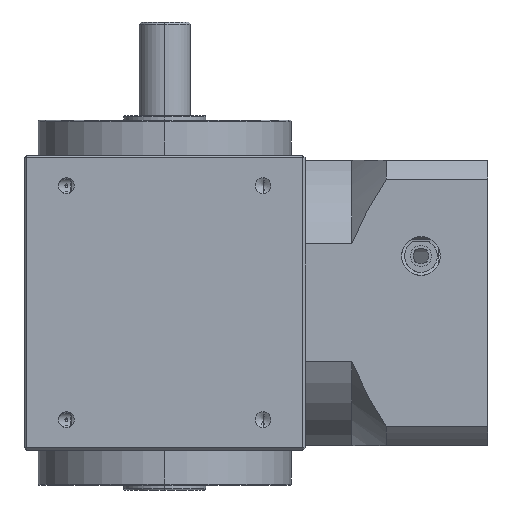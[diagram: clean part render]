
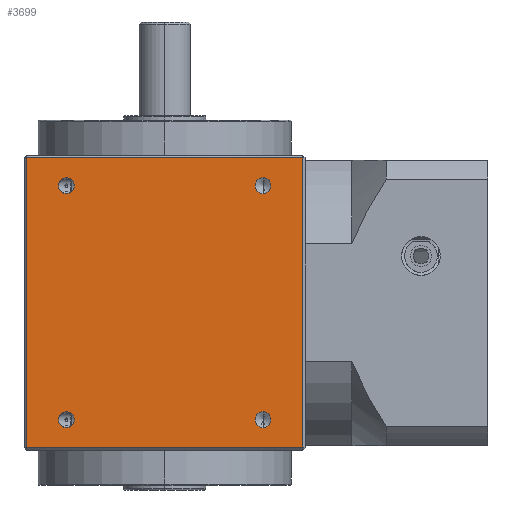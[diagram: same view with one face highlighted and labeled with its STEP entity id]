
A CAD part, left-side view. The second image highlights one B-rep face of the part: STEP entity #3699.
In plain terms, the highlighted planar face has unit normal (-1, 0, 0).
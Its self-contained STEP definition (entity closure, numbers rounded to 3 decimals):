
#340 = AXIS2_PLACEMENT_3D ( 'NONE', #7310, #7315, #7372 ) ;
#581 = VERTEX_POINT ( 'NONE', #5568 ) ;
#1179 = LINE ( 'NONE', #2977, #1190 ) ;
#1185 = LINE ( 'NONE', #2987, #1188 ) ;
#1187 = CIRCLE ( 'NONE', #6885, 3.4 ) ;
#1188 = VECTOR ( 'NONE', #2989, 1000. ) ;
#1189 = LINE ( 'NONE', #2991, #1192 ) ;
#1190 = VECTOR ( 'NONE', #2990, 1000. ) ;
#1191 = LINE ( 'NONE', #2993, #1194 ) ;
#1192 = VECTOR ( 'NONE', #2992, 1000. ) ;
#1193 = CIRCLE ( 'NONE', #6884, 3.4 ) ;
#1194 = VECTOR ( 'NONE', #2994, 1000. ) ;
#1195 = CIRCLE ( 'NONE', #6886, 3.4 ) ;
#1196 = CIRCLE ( 'NONE', #6887, 3.4 ) ;
#1274 = CIRCLE ( 'NONE', #6911, 3.4 ) ;
#1415 = CIRCLE ( 'NONE', #6966, 3.4 ) ;
#1435 = CIRCLE ( 'NONE', #6968, 3.4 ) ;
#1441 = CIRCLE ( 'NONE', #6971, 3.4 ) ;
#1940 = CARTESIAN_POINT ( 'NONE',  ( -60., -42., 53.4 ) ) ;
#2181 = ORIENTED_EDGE ( 'NONE', *, *, #5501, .F. ) ;
#2268 = ORIENTED_EDGE ( 'NONE', *, *, #5293, .F. ) ;
#2375 = ORIENTED_EDGE ( 'NONE', *, *, #5368, .F. ) ;
#2377 = ORIENTED_EDGE ( 'NONE', *, *, #5292, .F. ) ;
#2386 = VERTEX_POINT ( 'NONE', #7287 ) ;
#2977 = CARTESIAN_POINT ( 'NONE',  ( -60., 59., 63. ) ) ;
#2987 = CARTESIAN_POINT ( 'NONE',  ( -60., -60., -62. ) ) ;
#2989 = DIRECTION ( 'NONE',  ( 0., -1., 0. ) ) ;
#2990 = DIRECTION ( 'NONE',  ( 0., 0., -1. ) ) ;
#2991 = CARTESIAN_POINT ( 'NONE',  ( -60., 60., 62. ) ) ;
#2992 = DIRECTION ( 'NONE',  ( 0., 1., 0. ) ) ;
#2993 = CARTESIAN_POINT ( 'NONE',  ( -60., -59., 63. ) ) ;
#2994 = DIRECTION ( 'NONE',  ( 0., 0., 1. ) ) ;
#2995 = CARTESIAN_POINT ( 'NONE',  ( -60., -42., -50. ) ) ;
#2996 = DIRECTION ( 'NONE',  ( -1., 0., 0. ) ) ;
#2997 = DIRECTION ( 'NONE',  ( 0., 0., 1. ) ) ;
#2998 = CARTESIAN_POINT ( 'NONE',  ( -60., -42., 50. ) ) ;
#2999 = DIRECTION ( 'NONE',  ( -1., 0., 0. ) ) ;
#3000 = DIRECTION ( 'NONE',  ( 0., 0., 1. ) ) ;
#3001 = CARTESIAN_POINT ( 'NONE',  ( -60., 42., 50. ) ) ;
#3002 = DIRECTION ( 'NONE',  ( -1., 0., 0. ) ) ;
#3003 = DIRECTION ( 'NONE',  ( 0., 0., 1. ) ) ;
#3005 = CARTESIAN_POINT ( 'NONE',  ( -60., 42., -50. ) ) ;
#3006 = DIRECTION ( 'NONE',  ( -1., 0., 0. ) ) ;
#3007 = DIRECTION ( 'NONE',  ( 0., 0., 1. ) ) ;
#3365 = CARTESIAN_POINT ( 'NONE',  ( -60., 42., -50. ) ) ;
#3366 = DIRECTION ( 'NONE',  ( -1., 0., 0. ) ) ;
#3367 = DIRECTION ( 'NONE',  ( 0., 0., 1. ) ) ;
#3699 = ADVANCED_FACE ( 'NONE', ( #6852, #6856, #6853, #6855, #6854 ), #7306, .F. ) ;
#3881 = VERTEX_POINT ( 'NONE', #1940 ) ;
#4051 = CARTESIAN_POINT ( 'NONE',  ( -60., -42., -50. ) ) ;
#4052 = DIRECTION ( 'NONE',  ( -1., 0., 0. ) ) ;
#4053 = DIRECTION ( 'NONE',  ( 0., 0., 1. ) ) ;
#4134 = CARTESIAN_POINT ( 'NONE',  ( -60., 42., 50. ) ) ;
#4135 = DIRECTION ( 'NONE',  ( -1., 0., 0. ) ) ;
#4136 = DIRECTION ( 'NONE',  ( 0., 0., 1. ) ) ;
#4173 = CARTESIAN_POINT ( 'NONE',  ( -60., -42., 50. ) ) ;
#4174 = DIRECTION ( 'NONE',  ( -1., 0., 0. ) ) ;
#4175 = DIRECTION ( 'NONE',  ( 0., 0., 1. ) ) ;
#4409 = CARTESIAN_POINT ( 'NONE',  ( -60., -42., -53.4 ) ) ;
#4410 = CARTESIAN_POINT ( 'NONE',  ( -60., -42., -46.6 ) ) ;
#4411 = CARTESIAN_POINT ( 'NONE',  ( -60., 42., 46.6 ) ) ;
#4430 = CARTESIAN_POINT ( 'NONE',  ( -60., 42., -46.6 ) ) ;
#4431 = CARTESIAN_POINT ( 'NONE',  ( -60., 42., -53.4 ) ) ;
#4592 = CARTESIAN_POINT ( 'NONE',  ( -60., -59., 62. ) ) ;
#4593 = CARTESIAN_POINT ( 'NONE',  ( -60., -59., -62. ) ) ;
#4597 = CARTESIAN_POINT ( 'NONE',  ( -60., 59., 62. ) ) ;
#4598 = CARTESIAN_POINT ( 'NONE',  ( -60., 59., -62. ) ) ;
#5286 = EDGE_CURVE ( 'NONE', #5897, #5891, #1185, .T. ) ;
#5287 = EDGE_CURVE ( 'NONE', #5896, #5897, #1179, .T. ) ;
#5288 = EDGE_CURVE ( 'NONE', #5890, #5896, #1189, .T. ) ;
#5289 = EDGE_CURVE ( 'NONE', #5891, #5890, #1191, .T. ) ;
#5290 = EDGE_CURVE ( 'NONE', #5702, #5701, #1193, .T. ) ;
#5291 = EDGE_CURVE ( 'NONE', #3881, #581, #1187, .T. ) ;
#5292 = EDGE_CURVE ( 'NONE', #2386, #5703, #1195, .T. ) ;
#5293 = EDGE_CURVE ( 'NONE', #5724, #5725, #1196, .T. ) ;
#5368 = EDGE_CURVE ( 'NONE', #5725, #5724, #1274, .T. ) ;
#5483 = EDGE_CURVE ( 'NONE', #5701, #5702, #1415, .T. ) ;
#5501 = EDGE_CURVE ( 'NONE', #5703, #2386, #1435, .T. ) ;
#5509 = EDGE_CURVE ( 'NONE', #581, #3881, #1441, .T. ) ;
#5568 = CARTESIAN_POINT ( 'NONE',  ( -60., -42., 46.6 ) ) ;
#5701 = VERTEX_POINT ( 'NONE', #4409 ) ;
#5702 = VERTEX_POINT ( 'NONE', #4410 ) ;
#5703 = VERTEX_POINT ( 'NONE', #4411 ) ;
#5724 = VERTEX_POINT ( 'NONE', #4430 ) ;
#5725 = VERTEX_POINT ( 'NONE', #4431 ) ;
#5890 = VERTEX_POINT ( 'NONE', #4592 ) ;
#5891 = VERTEX_POINT ( 'NONE', #4593 ) ;
#5896 = VERTEX_POINT ( 'NONE', #4597 ) ;
#5897 = VERTEX_POINT ( 'NONE', #4598 ) ;
#6357 = EDGE_LOOP ( 'NONE', ( #6457, #6449 ) ) ;
#6360 = EDGE_LOOP ( 'NONE', ( #2268, #2375 ) ) ;
#6361 = EDGE_LOOP ( 'NONE', ( #6461, #6459, #6458, #6456 ) ) ;
#6362 = EDGE_LOOP ( 'NONE', ( #6464, #6463 ) ) ;
#6365 = EDGE_LOOP ( 'NONE', ( #2377, #2181 ) ) ;
#6449 = ORIENTED_EDGE ( 'NONE', *, *, #5509, .F. ) ;
#6456 = ORIENTED_EDGE ( 'NONE', *, *, #5286, .T. ) ;
#6457 = ORIENTED_EDGE ( 'NONE', *, *, #5291, .F. ) ;
#6458 = ORIENTED_EDGE ( 'NONE', *, *, #5287, .T. ) ;
#6459 = ORIENTED_EDGE ( 'NONE', *, *, #5288, .T. ) ;
#6461 = ORIENTED_EDGE ( 'NONE', *, *, #5289, .T. ) ;
#6463 = ORIENTED_EDGE ( 'NONE', *, *, #5483, .F. ) ;
#6464 = ORIENTED_EDGE ( 'NONE', *, *, #5290, .F. ) ;
#6852 = FACE_BOUND ( 'NONE', #6360, .T. ) ;
#6853 = FACE_BOUND ( 'NONE', #6357, .T. ) ;
#6854 = FACE_OUTER_BOUND ( 'NONE', #6361, .T. ) ;
#6855 = FACE_BOUND ( 'NONE', #6362, .T. ) ;
#6856 = FACE_BOUND ( 'NONE', #6365, .T. ) ;
#6884 = AXIS2_PLACEMENT_3D ( 'NONE', #2995, #2996, #2997 ) ;
#6885 = AXIS2_PLACEMENT_3D ( 'NONE', #2998, #2999, #3000 ) ;
#6886 = AXIS2_PLACEMENT_3D ( 'NONE', #3001, #3002, #3003 ) ;
#6887 = AXIS2_PLACEMENT_3D ( 'NONE', #3005, #3006, #3007 ) ;
#6911 = AXIS2_PLACEMENT_3D ( 'NONE', #3365, #3366, #3367 ) ;
#6966 = AXIS2_PLACEMENT_3D ( 'NONE', #4051, #4052, #4053 ) ;
#6968 = AXIS2_PLACEMENT_3D ( 'NONE', #4134, #4135, #4136 ) ;
#6971 = AXIS2_PLACEMENT_3D ( 'NONE', #4173, #4174, #4175 ) ;
#7287 = CARTESIAN_POINT ( 'NONE',  ( -60., 42., 53.4 ) ) ;
#7306 = PLANE ( 'NONE',  #340 ) ;
#7310 = CARTESIAN_POINT ( 'NONE',  ( -60., -60., 63. ) ) ;
#7315 = DIRECTION ( 'NONE',  ( 1., 0., 0. ) ) ;
#7372 = DIRECTION ( 'NONE',  ( 0., 0., -1. ) ) ;
